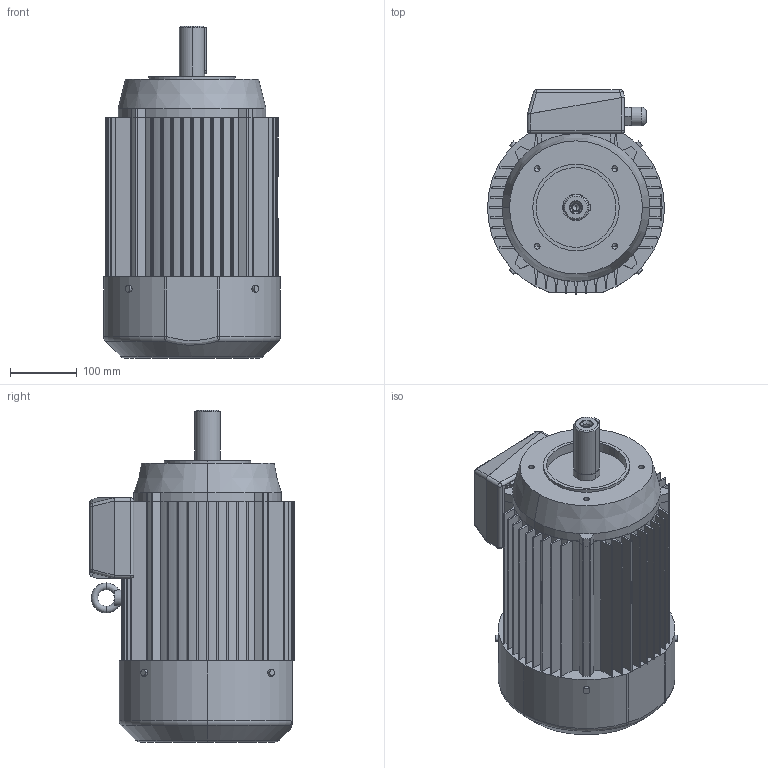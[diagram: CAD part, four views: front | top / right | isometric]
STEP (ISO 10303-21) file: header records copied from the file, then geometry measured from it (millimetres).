
FILE_DESCRIPTION (( 'STEP AP203' ), '1' );
FILE_NAME ('SKg 132S-2B,M-B14-C2.STEP', '2010-02-09T12:38:18', ( 'INDUKTA' ), ( 'CANTONI MOTOR' ), 'SwSTEP 2.0', 'SolidWorks 2003064', '' );
FILE_SCHEMA (( 'CONFIG_CONTROL_DESIGN' ));
Length unit declared in the file: millimetre
Products named in the file (1): SKg 132S-2B,M-B14-C2
Bounding box: 266 x 307 x 499 mm (x, y, z)
Volume: 19617072.3 mm3; surface area: 985550.8 mm2
Topology: 12 solids, 12 shells, 502 faces, 1338 edges, 851 vertices
Faces by surface type: plane 230, cylinder 184, bspline 43, cone 22, torus 13, sphere 10
Entity records: 19150 total; most frequent: CARTESIAN_POINT 6724, ORIENTED_EDGE 2636, DIRECTION 2518, EDGE_CURVE 1318, AXIS2_PLACEMENT_3D 861, VERTEX_POINT 851, VECTOR 796, LINE 796
